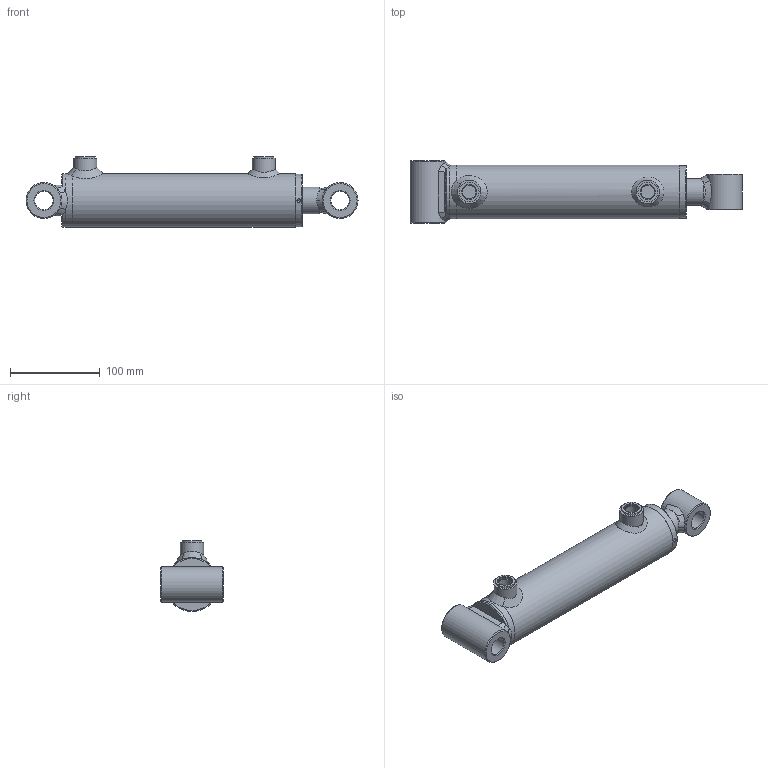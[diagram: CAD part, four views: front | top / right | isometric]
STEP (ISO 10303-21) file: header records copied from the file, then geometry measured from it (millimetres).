
FILE_DESCRIPTION( ( 'Unknown' ), '1' );
FILE_NAME( 'E:/LIBRERIA_3d/CILINDRI/HM2/HM22300150.stp', 'Unknown', ( 'Unknown' ), ( 'Unknown' ), 'PSStep 17.0.49', 'Unknown', ' ' );
FILE_SCHEMA( ( 'AUTOMOTIVE_DESIGN { 1 0 10303 214 1 1 1 1 }' ) );
Length unit declared in the file: millimetre
Products named in the file (26): CT00050020; CG06005030; STL2500150-oa6; Saldatura d'angolo 1-oa4; FTM2500150-oa5; CBSC220600; HM02300150; Saldatura con preparazione 1-oa2; Saldatura d'angolo 1-oa3; CF00050060; CBS0600000; CDA0002015; APG0600000; SBL3020150; Assem1; Saldatura d'angolo 1-oa0; Saldatura d'angolo 2-oa1; CB20040040; CB20040070
Assembly tree (18 placements, depth 4):
  Saldatura d'angolo 1-oa4
  Saldatura d'angolo 1-oa4
  Saldatura d'angolo 1-oa3
  Saldatura d'angolo 1-oa3
  Assem1
    CB20040040
    CB20040070
    HM02300150
      Saldatura con preparazione 1-oa2
      Saldatura con preparazione 1-oa2
      CF00050060
      CBS0600000
      CDA0002015
      APG0600000  x2
      SBL3020150
      CT00050020
        CT00050020
      CG06005030
        CG06005030
      STL2500150-oa6
        FTM2500150-oa5
        CBSC220600
Bounding box: 370 x 70 x 79 mm (x, y, z)
Volume: 647090.1 mm3; surface area: 213561.7 mm2
Topology: 22 solids, 22 shells, 325 faces, 659 edges, 383 vertices
Faces by surface type: bspline 114, plane 74, cylinder 59, cone 40, torus 38
Full cylindrical faces by diameter (mm): 4 x2, 4.25 x1, 5 x2, 7 x2, 14.95 x2, 16 x2, 16.6 x2, 19.4 x1, 20 x5, 20.25 x2, 22 x2, 24.5 x1, 26 x2, 30 x5, 32 x1, 33 x1, 34 x1, 38.6 x1, 40 x3, 45 x1, 45.41 x2, 48.66 x2, 49.9 x1, 50 x1, 50.3 x1, 50.5 x1, 50.6 x1, 51 x1, 52 x3, 52.5 x1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
Entity records: 18862 total; most frequent: CARTESIAN_POINT 11086, ORIENTED_EDGE 924, DIRECTION 850, EDGE_LOOP 494, EDGE_CURVE 462, FACE_OUTER_BOUND 412, AXIS2_PLACEMENT_3D 407, VERTEX_POINT 333
